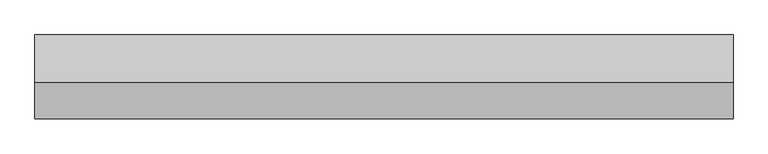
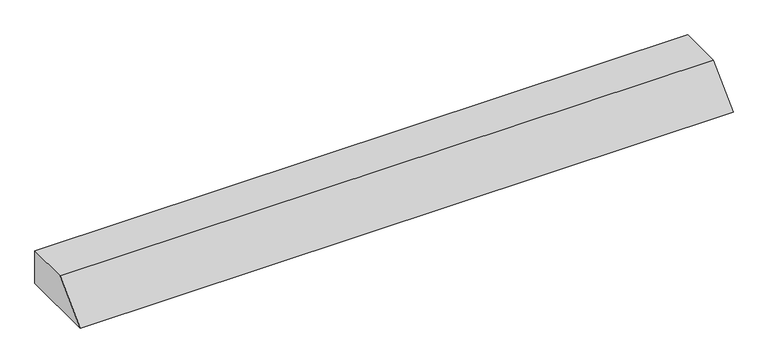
"""IFC4 building model written with IfcOpenShell, lengths in millimetres: proxy geometry, Gousset radier bord droit : Gousset radier bord droit."""

from ifc_helpers import new_model, si_unit, frame, origin, place, context, project, spatial, polyline, outline, extrude, source, transform, mapped, element, save


def generic_models_194e7ed4(model_context):
    return source(origin(), model_context, "Body", "SweptSolid", [
        extrude(outline(polyline([(0.0, 0.0), (-800.0, 0.0), (-450.0, 350.0), (0.0, 350.0), (0.0, 0.0)])), frame((0.0, 0.0, 0.0), z_axis=(1.0, 0.0, 0.0), x_axis=(0.0, 1.0, 0.0)), (0.0, 0.0, 1.0), 6657.3491734),
    ])


if __name__ == "__main__":
    model = new_model("IFC4")
    model_context = context("Model", 3, world=origin())
    ifc_project = project(units=[si_unit("LENGTHUNIT", "METRE", prefix="MILLI")], contexts=[model_context])
    site = spatial("IfcSite", under=ifc_project)
    building = spatial("IfcBuilding", under=site)
    placement = place(None, origin())
    generic_models_shape = generic_models_194e7ed4(model_context)
    element("IfcBuildingElementProxy", 1, Name="Gousset radier bord droit : Gousset radier bord droit", ObjectType="Gousset radier bord droit : Gousset radier bord droit", at=placement, inside=building, context=model_context, shape_type="MappedRepresentation", body=[
        mapped(generic_models_shape, transform((0.0, 0.0, 0.0), x_axis=(1.0, 0.0, 0.0), y_axis=(0.0, 1.0, 0.0), z_axis=(0.0, 0.0, 1.0))),
    ])
    save(model, "model.ifc")
